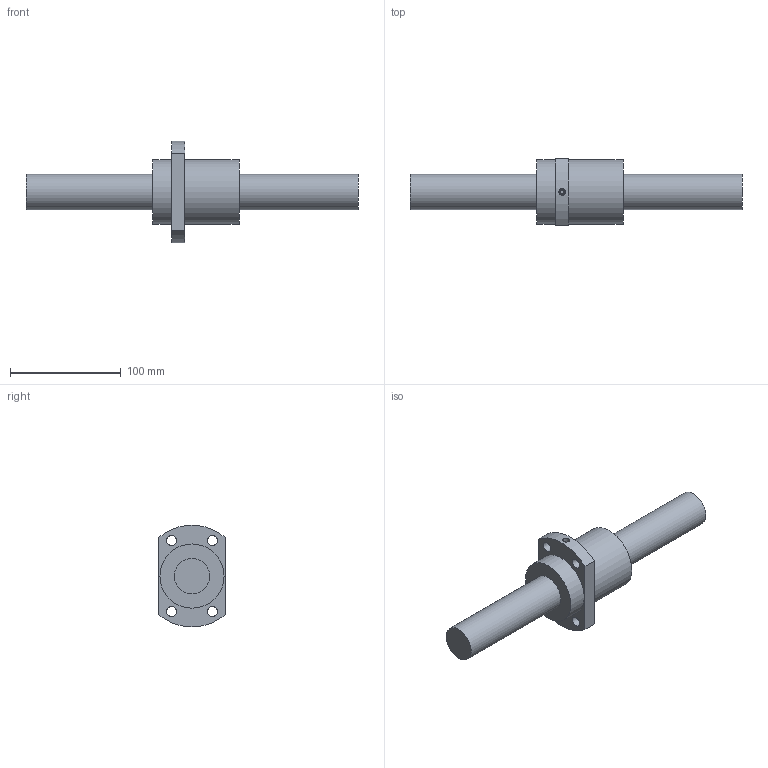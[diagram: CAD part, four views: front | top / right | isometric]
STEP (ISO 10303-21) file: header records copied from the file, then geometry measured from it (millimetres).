
FILE_DESCRIPTION((''),'2;1');
FILE_NAME('C:\Documents and Settings\土屋\My Documents\土屋移動用フォルダ\製品 (図面3D用)\カタログ用3D\ネジ\BSD-A\BSD3232A.stp','2018-12-15T09:53:01',('y'),(''),'Autodesk Inventor 11','Autodesk Inventor 11','');
FILE_SCHEMA(('AUTOMOTIVE_DESIGN { 1 0 10303 214 1 1 1 1 }'));
Length unit declared in the file: millimetre
Products named in the file (3): BSD3232A; BSD32ネジ軸
Assembly tree (2 placements, depth 2):
  BSD3232A
    BSD32ネジ軸
    BSD3232A
Bounding box: 300 x 60 x 91.86 mm (x, y, z)
Volume: 410783.7 mm3; surface area: 64544.9 mm2
Topology: 2 solids, 2 shells, 23 faces, 45 edges, 30 vertices
Faces by surface type: plane 10, cylinder 8, bspline 4, cone 1
Full cylindrical faces by diameter (mm): 3 x1, 6 x1, 32 x2, 58 x2
Entity records: 758 total; most frequent: CARTESIAN_POINT 226, DIRECTION 104, ORIENTED_EDGE 68, AXIS2_PLACEMENT_3D 48, EDGE_LOOP 48, EDGE_CURVE 34, VERTEX_POINT 30, FACE_BOUND 25
